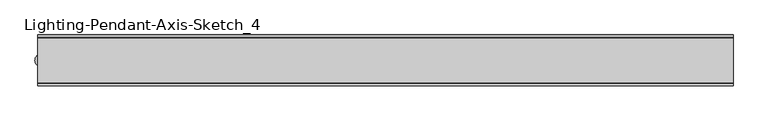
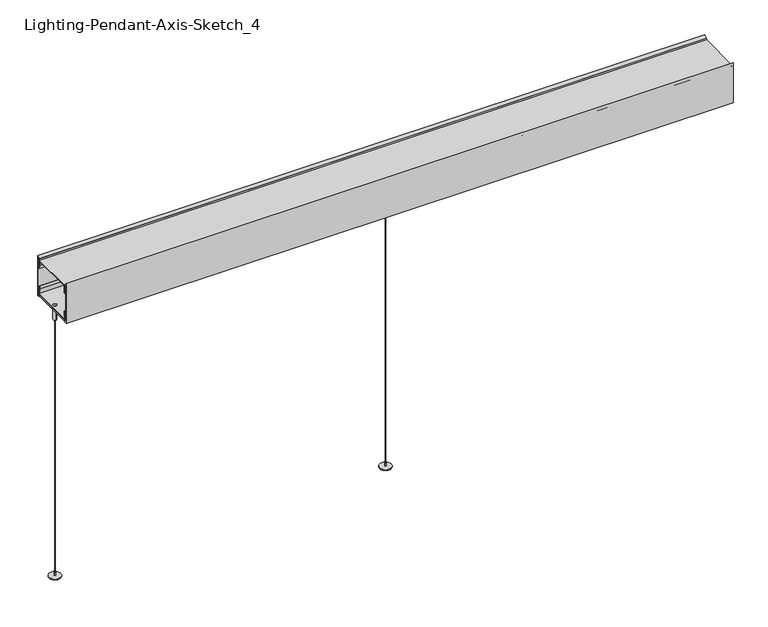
"""IFC4 building model written with IfcOpenShell, lengths in millimetres: light fixture geometry, Lighting-Pendant-Axis-Sketch_4 : SK4PDI-1400-1400-SO-SO-80-35."""

from ifc_helpers import new_model, si_unit, point, frame, frame_2d, origin, origin_with_axes, origin_2d, place, context, project, spatial, polyline, circle_curve, trimmed, segment, composite_curve, outline, extrude, source, transform, mapped, element, save
from ifc_brep_helpers import plane_surface, cylinder_surface, advanced_brep


def lighting_pendant_axis_sketch_4_e7b3e683(model_context):
    return source(origin(), model_context, "Body", "SolidModel", [
        extrude(outline(composite_curve([segment(trimmed(circle_curve(frame_2d((-709.93, 0.0)), 0.396875), [point((-710.326875, 0.0))], [point((-709.533125, 0.0))], False, "CARTESIAN"), True, "CONTINUOUS"), segment(trimmed(circle_curve(frame_2d((-709.93, 0.0)), 0.396875), [point((-709.533125, 0.0))], [point((-710.326875, 0.0))], False, "CARTESIAN"), True, "CONTINUOUS")], self_intersect=False)), frame((0.0, 0.0, 9.525), z_axis=(0.0, 0.0, 1.0), x_axis=(1.0, 0.0, 0.0)), (0.0, 0.0, 1.0), 600.075),
        advanced_brep(
        [(-709.93, 1.2, 583.1008521), (-709.93, -1.2, 583.1008521), (-709.93, -2.95625, 583.1008521), (-709.93, 2.95625, 583.1008521), (-709.93, 1.2, 580.2508521), (-709.93, -1.2, 580.2508521), (-709.93, 0.0, 580.2508521), (-709.93, 3.75, 616.0364681), (-709.93, -3.75, 616.0364681), (-709.93, 0.0, 616.0364681), (-709.93, 3.75, 584.1008521), (-709.93, -3.75, 584.1008521), (-709.93, 2.95625, 584.1008521), (-709.93, -2.95625, 584.1008521)],
        [
            (0, 1, circle_curve(frame((-709.93, 0.0, 583.1008521), z_axis=(0.0, 0.0, 1.0), x_axis=(0.0, -1.0, 0.0)), 1.2)),
            (1, 2),
            (2, 3, circle_curve(frame((-709.93, 0.0, 583.1008521), z_axis=(0.0, 0.0, -1.0), x_axis=(0.0, -1.0, 0.0)), 2.95625)),
            (3, 0),
            (1, 0, circle_curve(frame((-709.93, 0.0, 583.1008521), z_axis=(0.0, 0.0, 1.0), x_axis=(0.0, -1.0, 0.0)), 1.2)),
            (3, 2, circle_curve(frame((-709.93, 0.0, 583.1008521), z_axis=(0.0, 0.0, -1.0), x_axis=(0.0, -1.0, 0.0)), 2.95625)),
            (4, 5, circle_curve(frame((-709.93, 0.0, 580.2508521), z_axis=(0.0, 0.0, 1.0), x_axis=(0.0, -1.0, 0.0)), 1.2)),
            (5, 1),
            (0, 4),
            (5, 4, circle_curve(frame((-709.93, 0.0, 580.2508521), z_axis=(0.0, 0.0, 1.0), x_axis=(0.0, -1.0, 0.0)), 1.2)),
            (6, 5),
            (4, 6),
            (7, 8, circle_curve(frame((-709.93, 0.0, 616.0364681), z_axis=(0.0, 0.0, 1.0), x_axis=(0.0, -1.0, 0.0)), 3.75)),
            (8, 9),
            (9, 7),
            (8, 7, circle_curve(frame((-709.93, 0.0, 616.0364681), z_axis=(0.0, 0.0, 1.0), x_axis=(0.0, -1.0, 0.0)), 3.75)),
            (10, 11, circle_curve(frame((-709.93, 0.0, 584.1008521), z_axis=(0.0, 0.0, 1.0), x_axis=(0.0, -1.0, 0.0)), 3.75)),
            (11, 8),
            (7, 10),
            (11, 10, circle_curve(frame((-709.93, 0.0, 584.1008521), z_axis=(0.0, 0.0, 1.0), x_axis=(0.0, -1.0, 0.0)), 3.75)),
            (12, 13, circle_curve(frame((-709.93, 0.0, 584.1008521), z_axis=(0.0, 0.0, 1.0), x_axis=(0.0, -1.0, 0.0)), 2.95625)),
            (13, 11),
            (10, 12),
            (13, 12, circle_curve(frame((-709.93, 0.0, 584.1008521), z_axis=(0.0, 0.0, 1.0), x_axis=(0.0, -1.0, 0.0)), 2.95625)),
            (2, 13),
            (12, 3),
        ],
        [
            plane_surface(frame((-709.93, 0.0, 583.1008521), z_axis=(0.0, 0.0, -1.0), x_axis=(0.0, -1.0, 0.0))),
            cylinder_surface(frame((-709.93, 0.0, 2648.6067943), z_axis=(0.0, 0.0, -1.0), x_axis=(0.0, -1.0, 0.0)), 1.2),
            plane_surface(frame((-709.93, 0.0, 580.2508521), z_axis=(0.0, 0.0, -1.0), x_axis=(0.0, -1.0, 0.0))),
            plane_surface(frame((-709.93, 0.0, 616.0364681), z_axis=(0.0, 0.0, 1.0), x_axis=(0.0, -1.0, 0.0))),
            cylinder_surface(frame((-709.93, 0.0, 2648.6067943), z_axis=(0.0, 0.0, -1.0), x_axis=(0.0, -1.0, 0.0)), 3.75),
            plane_surface(frame((-709.93, 0.0, 584.1008521), z_axis=(0.0, 0.0, -1.0), x_axis=(0.0, -1.0, 0.0))),
            cylinder_surface(frame((-709.93, 0.0, 2648.6067943), z_axis=(0.0, 0.0, -1.0), x_axis=(0.0, -1.0, 0.0)), 2.95625),
        ],
        [
            (0, [[1, 2, 3, 4]]),
            (0, [[5, -4, 6, -2]]),
            (1, [[7, 8, -1, 9]]),
            (1, [[10, -9, -5, -8]]),
            (2, [[11, -7, 12]]),
            (2, [[-12, -10, -11]]),
            (3, [[13, 14, 15]]),
            (3, [[16, -15, -14]]),
            (4, [[17, 18, -13, 19]]),
            (4, [[20, -19, -16, -18]]),
            (5, [[21, 22, -17, 23]]),
            (5, [[24, -23, -20, -22]]),
            (6, [[-3, 25, -21, 26]]),
            (6, [[-6, -26, -24, -25]]),
        ],
    ),
        extrude(outline(composite_curve([segment(trimmed(circle_curve(frame_2d((-709.93, 0.0)), 12.7), [point((-722.63, 0.0))], [point((-697.23, 0.0))], False, "CARTESIAN"), True, "CONTINUOUS"), segment(trimmed(circle_curve(frame_2d((-709.93, 0.0)), 12.7), [point((-697.23, 0.0))], [point((-722.63, 0.0))], False, "CARTESIAN"), True, "CONTINUOUS")], self_intersect=False)), origin_with_axes(), (0.0, 0.0, 1.0), 1.5875),
        extrude(outline(composite_curve([segment(trimmed(circle_curve(frame_2d((-709.93, 0.0)), 1.5875), [point((-711.5175, 0.0))], [point((-708.3425, 0.0))], False, "CARTESIAN"), True, "CONTINUOUS"), segment(trimmed(circle_curve(frame_2d((-709.93, 0.0)), 1.5875), [point((-708.3425, 0.0))], [point((-711.5175, 0.0))], False, "CARTESIAN"), True, "CONTINUOUS")], self_intersect=False)), frame((0.0, 0.0, 1.5875), z_axis=(0.0, 0.0, 1.0), x_axis=(1.0, 0.0, 0.0)), (0.0, 0.0, 1.0), 7.9375),
        extrude(outline(composite_curve([segment(trimmed(circle_curve(origin_2d(), 0.396875), [point((-0.396875, 0.0))], [point((0.396875, 0.0))], False, "CARTESIAN"), True, "CONTINUOUS"), segment(trimmed(circle_curve(origin_2d(), 0.396875), [point((0.396875, 0.0))], [point((-0.396875, 0.0))], False, "CARTESIAN"), True, "CONTINUOUS")], self_intersect=False)), frame((0.0, 0.0, 9.525), z_axis=(0.0, 0.0, 1.0), x_axis=(1.0, 0.0, 0.0)), (0.0, 0.0, 1.0), 600.075),
        advanced_brep(
        [(0.0, 1.2, 583.1008521), (0.0, -1.2, 583.1008521), (0.0, -2.95625, 583.1008521), (0.0, 2.95625, 583.1008521), (0.0, 1.2, 580.2508521), (0.0, -1.2, 580.2508521), (0.0, 0.0, 580.2508521), (0.0, 3.75, 616.0364681), (0.0, -3.75, 616.0364681), (0.0, 0.0, 616.0364681), (0.0, 3.75, 584.1008521), (0.0, -3.75, 584.1008521), (0.0, 2.95625, 584.1008521), (0.0, -2.95625, 584.1008521)],
        [
            (0, 1, circle_curve(frame((0.0, 0.0, 583.1008521), z_axis=(0.0, 0.0, 1.0), x_axis=(0.0, -1.0, 0.0)), 1.2)),
            (1, 2),
            (2, 3, circle_curve(frame((0.0, 0.0, 583.1008521), z_axis=(0.0, 0.0, -1.0), x_axis=(0.0, -1.0, 0.0)), 2.95625)),
            (3, 0),
            (1, 0, circle_curve(frame((0.0, 0.0, 583.1008521), z_axis=(0.0, 0.0, 1.0), x_axis=(0.0, -1.0, 0.0)), 1.2)),
            (3, 2, circle_curve(frame((0.0, 0.0, 583.1008521), z_axis=(0.0, 0.0, -1.0), x_axis=(0.0, -1.0, 0.0)), 2.95625)),
            (4, 5, circle_curve(frame((0.0, 0.0, 580.2508521), z_axis=(0.0, 0.0, 1.0), x_axis=(0.0, -1.0, 0.0)), 1.2)),
            (5, 1),
            (0, 4),
            (5, 4, circle_curve(frame((0.0, 0.0, 580.2508521), z_axis=(0.0, 0.0, 1.0), x_axis=(0.0, -1.0, 0.0)), 1.2)),
            (6, 5),
            (4, 6),
            (7, 8, circle_curve(frame((0.0, 0.0, 616.0364681), z_axis=(0.0, 0.0, 1.0), x_axis=(0.0, -1.0, 0.0)), 3.75)),
            (8, 9),
            (9, 7),
            (8, 7, circle_curve(frame((0.0, 0.0, 616.0364681), z_axis=(0.0, 0.0, 1.0), x_axis=(0.0, -1.0, 0.0)), 3.75)),
            (10, 11, circle_curve(frame((0.0, 0.0, 584.1008521), z_axis=(0.0, 0.0, 1.0), x_axis=(0.0, -1.0, 0.0)), 3.75)),
            (11, 8),
            (7, 10),
            (11, 10, circle_curve(frame((0.0, 0.0, 584.1008521), z_axis=(0.0, 0.0, 1.0), x_axis=(0.0, -1.0, 0.0)), 3.75)),
            (12, 13, circle_curve(frame((0.0, 0.0, 584.1008521), z_axis=(0.0, 0.0, 1.0), x_axis=(0.0, -1.0, 0.0)), 2.95625)),
            (13, 11),
            (10, 12),
            (13, 12, circle_curve(frame((0.0, 0.0, 584.1008521), z_axis=(0.0, 0.0, 1.0), x_axis=(0.0, -1.0, 0.0)), 2.95625)),
            (2, 13),
            (12, 3),
        ],
        [
            plane_surface(frame((0.0, 0.0, 583.1008521), z_axis=(0.0, 0.0, -1.0), x_axis=(0.0, -1.0, 0.0))),
            cylinder_surface(frame((0.0, 0.0, 2648.6067943), z_axis=(0.0, 0.0, -1.0), x_axis=(0.0, -1.0, 0.0)), 1.2),
            plane_surface(frame((0.0, 0.0, 580.2508521), z_axis=(0.0, 0.0, -1.0), x_axis=(0.0, -1.0, 0.0))),
            plane_surface(frame((0.0, 0.0, 616.0364681), z_axis=(0.0, 0.0, 1.0), x_axis=(0.0, -1.0, 0.0))),
            cylinder_surface(frame((0.0, 0.0, 2648.6067943), z_axis=(0.0, 0.0, -1.0), x_axis=(0.0, -1.0, 0.0)), 3.75),
            plane_surface(frame((0.0, 0.0, 584.1008521), z_axis=(0.0, 0.0, -1.0), x_axis=(0.0, -1.0, 0.0))),
            cylinder_surface(frame((0.0, 0.0, 2648.6067943), z_axis=(0.0, 0.0, -1.0), x_axis=(0.0, -1.0, 0.0)), 2.95625),
        ],
        [
            (0, [[1, 2, 3, 4]]),
            (0, [[5, -4, 6, -2]]),
            (1, [[7, 8, -1, 9]]),
            (1, [[10, -9, -5, -8]]),
            (2, [[11, -7, 12]]),
            (2, [[-12, -10, -11]]),
            (3, [[13, 14, 15]]),
            (3, [[16, -15, -14]]),
            (4, [[17, 18, -13, 19]]),
            (4, [[20, -19, -16, -18]]),
            (5, [[21, 22, -17, 23]]),
            (5, [[24, -23, -20, -22]]),
            (6, [[-3, 25, -21, 26]]),
            (6, [[-6, -26, -24, -25]]),
        ],
    ),
        extrude(outline(composite_curve([segment(trimmed(circle_curve(origin_2d(), 12.7), [point((-12.7, 0.0))], [point((12.7, 0.0))], False, "CARTESIAN"), True, "CONTINUOUS"), segment(trimmed(circle_curve(origin_2d(), 12.7), [point((12.7, 0.0))], [point((-12.7, 0.0))], False, "CARTESIAN"), True, "CONTINUOUS")], self_intersect=False)), origin_with_axes(), (0.0, 0.0, 1.0), 1.5875),
        extrude(outline(composite_curve([segment(trimmed(circle_curve(origin_2d(), 1.5875), [point((-1.5875, 0.0))], [point((1.5875, 0.0))], False, "CARTESIAN"), True, "CONTINUOUS"), segment(trimmed(circle_curve(origin_2d(), 1.5875), [point((1.5875, 0.0))], [point((-1.5875, 0.0))], False, "CARTESIAN"), True, "CONTINUOUS")], self_intersect=False)), frame((0.0, 0.0, 1.5875), z_axis=(0.0, 0.0, 1.0), x_axis=(1.0, 0.0, 0.0)), (0.0, 0.0, 1.0), 7.9375),
        extrude(outline(polyline([(-716.28, -48.2599987), (-716.28, 48.2599977), (716.28, 48.2599977), (716.28, -48.2599987), (-716.28, -48.2599987)])), frame((0.0, 0.0, 689.9966516), z_axis=(0.0, 0.0, 1.0), x_axis=(1.0, 0.0, 0.0)), (0.0, 0.0, 1.0), 1.2700021),
        extrude(outline(polyline([(-716.28, -48.2599987), (-716.28, 48.2599977), (716.28, 48.2599977), (716.28, -48.2599987), (-716.28, -48.2599987)])), frame((0.0, 0.0, 614.5727648), z_axis=(0.0, 0.0, 1.0), x_axis=(1.0, 0.0, 0.0)), (0.0, 0.0, 1.0), 1.27),
        extrude(outline(polyline([(-52.387502, 608.1183333), (-52.387502, 698.5705614), (-47.9424983, 694.1255577), (-50.4824984, 694.1255577), (-50.4824984, 610.0233333), (-48.5749867, 610.0233333), (-48.5749867, 611.2933333), (-47.3074984, 611.2933333), (-47.3074984, 609.6312495), (-48.8649121, 608.1183333), (-52.387502, 608.1183333)])), frame((-716.28, 0.0, 0.0), z_axis=(1.0, 0.0, 0.0), x_axis=(0.0, 1.0, 0.0)), (0.0, 0.0, 1.0), 1432.56),
        extrude(outline(composite_curve([segment(polyline([(-47.7623797, 617.2181133), (-47.203689, 626.6227718), (-47.1663883, 632.7774986), (-46.1433321, 632.7774986), (-46.2138897, 626.1805556), (-46.8043106, 616.3008472), (-48.3048304, 616.3008472)]), True, "CONTINUOUS"), segment(trimmed(circle_curve(frame_2d((-48.3048304, 615.63155)), 0.6692972), [point((-48.3048304, 616.3008472))], [point((-48.9655543, 615.7383333))], True, "CARTESIAN"), True, "CONTINUOUS"), segment(polyline([(-48.9655543, 615.7383333), (-48.9062894, 614.1085157), (-46.5723819, 614.1933833), (-48.2952793, 612.3516667)]), True, "CONTINUOUS"), segment(trimmed(circle_curve(frame_2d((-48.7732449, 613.3920688)), 1.1449401), [point((-48.2952793, 612.3516667))], [point((-49.9180536, 613.3747222))], False, "CARTESIAN"), True, "CONTINUOUS"), segment(polyline([(-49.9180536, 613.3747222), (-49.9533335, 615.7030556)]), True, "CONTINUOUS"), segment(trimmed(circle_curve(frame_2d((-48.3340208, 615.7030556)), 1.6193127), [point((-49.9533335, 615.7030556))], [point((-47.7623797, 617.2181133))], False, "CARTESIAN"), True, "CONTINUOUS")], self_intersect=False)), frame((-716.28, 0.0, 0.0), z_axis=(1.0, 0.0, 0.0), x_axis=(0.0, 1.0, 0.0)), (0.0, 0.0, 1.0), 1432.56),
        extrude(outline(composite_curve([segment(polyline([(-47.1044268, 679.4782704), (-47.2795148, 688.3201765)]), True, "CONTINUOUS"), segment(trimmed(circle_curve(frame_2d((-47.6971346, 689.9992206)), 1.730201), [point((-47.2795148, 688.3201765))], [point((-49.4241668, 690.1038875))], False, "CARTESIAN"), True, "CONTINUOUS"), segment(polyline([(-49.4241668, 690.1038875), (-49.2830578, 692.4322236)]), True, "CONTINUOUS"), segment(trimmed(circle_curve(frame_2d((-48.1406669, 692.3629889)), 1.144487), [point((-49.2830578, 692.4322236))], [point((-47.6250008, 693.3847222))], False, "CARTESIAN"), True, "CONTINUOUS"), segment(polyline([(-47.6250008, 693.3847222), (-45.9802057, 691.5049613), (-48.3121579, 691.6345118), (-48.4283489, 689.5430339), (-46.305025, 689.3731705), (-46.1087781, 679.4627439), (-46.318589, 672.9236111), (-47.3427772, 672.9236111), (-47.1044268, 679.4782704)]), True, "CONTINUOUS")], self_intersect=False)), frame((-716.28, 0.0, 0.0), z_axis=(1.0, 0.0, 0.0), x_axis=(0.0, 1.0, 0.0)), (0.0, 0.0, 1.0), 1432.56),
        extrude(outline(polyline([(52.387502, 608.1183333), (48.8649121, 608.1183333), (47.3074984, 609.6312495), (47.3074984, 611.2933333), (48.5749867, 611.2933333), (48.5749867, 610.0233333), (50.4824984, 610.0233333), (50.4824984, 694.1255577), (47.9424983, 694.1255577), (52.387502, 698.5705614), (52.387502, 608.1183333)])), frame((-716.28, 0.0, 0.0), z_axis=(1.0, 0.0, 0.0), x_axis=(0.0, 1.0, 0.0)), (0.0, 0.0, 1.0), 1432.56),
        extrude(outline(composite_curve([segment(trimmed(circle_curve(frame_2d((48.3340208, 615.7030556)), 1.6193127), [point((47.7623797, 617.2181133))], [point((49.9533335, 615.7030556))], False, "CARTESIAN"), True, "CONTINUOUS"), segment(polyline([(49.9533335, 615.7030556), (49.9180536, 613.3747222)]), True, "CONTINUOUS"), segment(trimmed(circle_curve(frame_2d((48.7732449, 613.3920688)), 1.1449401), [point((49.9180536, 613.3747222))], [point((48.2952793, 612.3516667))], False, "CARTESIAN"), True, "CONTINUOUS"), segment(polyline([(48.2952793, 612.3516667), (46.6913645, 614.0661951), (48.9655543, 614.2021029), (48.9655543, 615.7383333)]), True, "CONTINUOUS"), segment(trimmed(circle_curve(frame_2d((48.3048304, 615.63155)), 0.6692972), [point((48.9655543, 615.7383333))], [point((48.3048304, 616.3008472))], True, "CARTESIAN"), True, "CONTINUOUS"), segment(polyline([(48.3048304, 616.3008472), (46.8043106, 616.3008472), (46.2138897, 626.1805556), (46.1433321, 632.7774986), (47.1663883, 632.7774986), (47.203689, 626.6227718), (47.7623797, 617.2181133)]), True, "CONTINUOUS")], self_intersect=False)), frame((-716.28, 0.0, 0.0), z_axis=(1.0, 0.0, 0.0), x_axis=(0.0, 1.0, 0.0)), (0.0, 0.0, 1.0), 1432.56),
        extrude(outline(composite_curve([segment(polyline([(47.1044268, 679.4782704), (47.3427772, 672.9236111), (46.318589, 672.9236111), (46.1087781, 679.4627439), (46.305025, 689.3731705), (48.4283489, 689.5430339), (48.3121579, 691.6345118), (45.9802057, 691.5049613), (47.6250008, 693.3847222)]), True, "CONTINUOUS"), segment(trimmed(circle_curve(frame_2d((48.1406669, 692.3629889)), 1.144487), [point((47.6250008, 693.3847222))], [point((49.2830578, 692.4322236))], False, "CARTESIAN"), True, "CONTINUOUS"), segment(polyline([(49.2830578, 692.4322236), (49.4241668, 690.1038875)]), True, "CONTINUOUS"), segment(trimmed(circle_curve(frame_2d((47.6971346, 689.9992206)), 1.730201), [point((49.4241668, 690.1038875))], [point((47.2795148, 688.3201765))], False, "CARTESIAN"), True, "CONTINUOUS"), segment(polyline([(47.2795148, 688.3201765), (47.1044268, 679.4782704)]), True, "CONTINUOUS")], self_intersect=False)), frame((-716.28, 0.0, 0.0), z_axis=(1.0, 0.0, 0.0), x_axis=(0.0, 1.0, 0.0)), (0.0, 0.0, 1.0), 1432.56),
        extrude(outline(polyline([(-716.28, -47.3074984), (-716.28, 47.3074984), (716.28, 47.3074984), (716.28, -47.3074984), (-716.28, -47.3074984)])), frame((0.0, 0.0, 609.6312495), z_axis=(0.0, 0.0, 1.0), x_axis=(1.0, 0.0, 0.0)), (0.0, 0.0, 1.0), 1.6620839),
    ])


if __name__ == "__main__":
    model = new_model("IFC4")
    model_context = context("Model", 3, world=origin())
    ifc_project = project(units=[si_unit("LENGTHUNIT", "METRE", prefix="MILLI")], contexts=[model_context])
    site = spatial("IfcSite", under=ifc_project)
    building = spatial("IfcBuilding", under=site)
    placement = place(None, origin())
    lighting_pendant_axis_sketch_4_shape = lighting_pendant_axis_sketch_4_e7b3e683(model_context)
    element("IfcLightFixture", 1, ObjectType="Lighting-Pendant-Axis-Sketch_4 : SK4PDI-1400-1400-SO-SO-80-35", at=placement, inside=building, context=model_context, shape_type="MappedRepresentation", body=[
        mapped(lighting_pendant_axis_sketch_4_shape, transform((0.0, 0.0, 0.0), x_axis=(1.0, 0.0, 0.0), y_axis=(0.0, 1.0, 0.0), z_axis=(0.0, 0.0, 1.0))),
    ])
    save(model, "model.ifc")
